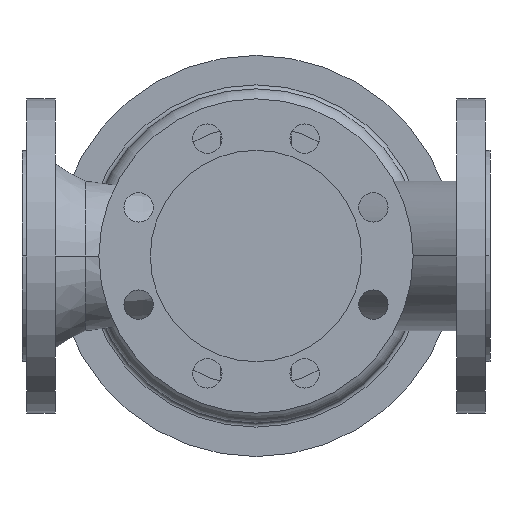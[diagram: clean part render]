
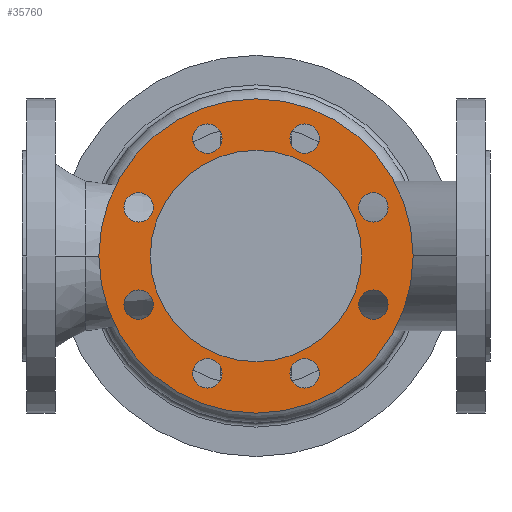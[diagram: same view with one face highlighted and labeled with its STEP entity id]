
A CAD part, front view. The second image highlights one B-rep face of the part: STEP entity #35760.
In plain terms, the highlighted planar face has unit normal (0, -1, 0).
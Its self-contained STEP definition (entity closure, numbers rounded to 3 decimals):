
#3290=CARTESIAN_POINT('',(254.,-146.5,0.));
#3300=VERTEX_POINT('',#3290);
#3350=CARTESIAN_POINT('',(175.,-146.5,0.));
#3360=DIRECTION('',(0.,-1.,0.));
#3370=DIRECTION('',(1.,0.,0.));
#3380=AXIS2_PLACEMENT_3D('',#3350,#3360,#3370);
#3390=CIRCLE('',#3380,79.);
#3400=CARTESIAN_POINT('',(96.,-146.5,0.));
#3410=VERTEX_POINT('',#3400);
#3420=EDGE_CURVE('',#3410,#3300,#3390,.T.);
#10490=CARTESIAN_POINT('',(57.5,-146.5,0.));
#10500=VERTEX_POINT('',#10490);
#10530=CARTESIAN_POINT('',(175.,-146.5,0.));
#10540=DIRECTION('',(0.,1.,0.));
#10550=DIRECTION('',(1.,0.,0.));
#10560=AXIS2_PLACEMENT_3D('',#10530,#10540,#10550);
#10570=CIRCLE('',#10560,117.5);
#10580=CARTESIAN_POINT('',(292.5,-146.5,0.));
#10590=VERTEX_POINT('',#10580);
#10600=EDGE_CURVE('',#10590,#10500,#10570,.T.);
#10910=CARTESIAN_POINT('',(251.769,-146.5,-36.355));
#10920=VERTEX_POINT('',#10910);
#11080=CARTESIAN_POINT('',(273.769,-146.5,-36.355));
#11090=VERTEX_POINT('',#11080);
#11120=CARTESIAN_POINT('',(262.769,-146.5,-36.355));
#11130=DIRECTION('',(0.,1.,0.));
#11140=DIRECTION('',(1.,0.,0.));
#11150=AXIS2_PLACEMENT_3D('',#11120,#11130,#11140);
#11160=CIRCLE('',#11150,11.);
#11170=EDGE_CURVE('',#11090,#10920,#11160,.T.);
#11330=CARTESIAN_POINT('',(273.769,-146.5,36.355));
#11340=VERTEX_POINT('',#11330);
#11500=CARTESIAN_POINT('',(251.769,-146.5,36.355));
#11510=VERTEX_POINT('',#11500);
#11540=CARTESIAN_POINT('',(262.769,-146.5,36.355));
#11550=DIRECTION('',(0.,1.,0.));
#11560=DIRECTION('',(1.,0.,0.));
#11570=AXIS2_PLACEMENT_3D('',#11540,#11550,#11560);
#11580=CIRCLE('',#11570,11.);
#11590=EDGE_CURVE('',#11510,#11340,#11580,.T.);
#11750=CARTESIAN_POINT('',(222.355,-146.5,-87.769));
#11760=VERTEX_POINT('',#11750);
#11790=CARTESIAN_POINT('',(211.355,-146.5,-87.769));
#11800=DIRECTION('',(0.,1.,0.));
#11810=DIRECTION('',(1.,0.,0.));
#11820=AXIS2_PLACEMENT_3D('',#11790,#11800,#11810);
#11830=CIRCLE('',#11820,11.);
#11840=CARTESIAN_POINT('',(200.355,-146.5,-87.769));
#11850=VERTEX_POINT('',#11840);
#11860=EDGE_CURVE('',#11760,#11850,#11830,.T.);
#12170=CARTESIAN_POINT('',(222.355,-146.5,87.769));
#12180=VERTEX_POINT('',#12170);
#12340=CARTESIAN_POINT('',(200.355,-146.5,87.769));
#12350=VERTEX_POINT('',#12340);
#12380=CARTESIAN_POINT('',(211.355,-146.5,87.769));
#12390=DIRECTION('',(0.,1.,0.));
#12400=DIRECTION('',(1.,0.,0.));
#12410=AXIS2_PLACEMENT_3D('',#12380,#12390,#12400);
#12420=CIRCLE('',#12410,11.);
#12430=EDGE_CURVE('',#12350,#12180,#12420,.T.);
#12590=CARTESIAN_POINT('',(149.645,-146.5,-87.769));
#12600=VERTEX_POINT('',#12590);
#12630=CARTESIAN_POINT('',(138.645,-146.5,-87.769));
#12640=DIRECTION('',(0.,1.,0.));
#12650=DIRECTION('',(1.,0.,0.));
#12660=AXIS2_PLACEMENT_3D('',#12630,#12640,#12650);
#12670=CIRCLE('',#12660,11.);
#12680=CARTESIAN_POINT('',(127.645,-146.5,-87.769));
#12690=VERTEX_POINT('',#12680);
#12700=EDGE_CURVE('',#12600,#12690,#12670,.T.);
#13010=CARTESIAN_POINT('',(149.645,-146.5,87.769));
#13020=VERTEX_POINT('',#13010);
#13050=CARTESIAN_POINT('',(138.645,-146.5,87.769));
#13060=DIRECTION('',(0.,1.,0.));
#13070=DIRECTION('',(1.,0.,0.));
#13080=AXIS2_PLACEMENT_3D('',#13050,#13060,#13070);
#13090=CIRCLE('',#13080,11.);
#13100=CARTESIAN_POINT('',(127.645,-146.5,87.769));
#13110=VERTEX_POINT('',#13100);
#13120=EDGE_CURVE('',#13020,#13110,#13090,.T.);
#13430=CARTESIAN_POINT('',(98.231,-146.5,-36.355));
#13440=VERTEX_POINT('',#13430);
#13600=CARTESIAN_POINT('',(76.231,-146.5,-36.355));
#13610=VERTEX_POINT('',#13600);
#13640=CARTESIAN_POINT('',(87.231,-146.5,-36.355));
#13650=DIRECTION('',(0.,1.,0.));
#13660=DIRECTION('',(1.,0.,0.));
#13670=AXIS2_PLACEMENT_3D('',#13640,#13650,#13660);
#13680=CIRCLE('',#13670,11.);
#13690=EDGE_CURVE('',#13610,#13440,#13680,.T.);
#13850=CARTESIAN_POINT('',(76.231,-146.5,36.355));
#13860=VERTEX_POINT('',#13850);
#13890=CARTESIAN_POINT('',(87.231,-146.5,36.355));
#13900=DIRECTION('',(0.,1.,0.));
#13910=DIRECTION('',(1.,0.,0.));
#13920=AXIS2_PLACEMENT_3D('',#13890,#13900,#13910);
#13930=CIRCLE('',#13920,11.);
#13940=CARTESIAN_POINT('',(98.231,-146.5,36.355));
#13950=VERTEX_POINT('',#13940);
#13960=EDGE_CURVE('',#13860,#13950,#13930,.T.);
#35210=CARTESIAN_POINT('',(175.,-146.5,0.));
#35220=DIRECTION('',(0.,1.,0.));
#35230=DIRECTION('',(0.,0.,1.));
#35240=AXIS2_PLACEMENT_3D('',#35210,#35220,#35230);
#35250=PLANE('',#35240);
#35260=ORIENTED_EDGE('',*,*,#13960,.T.);
#35270=EDGE_CURVE('',#13950,#13860,#13930,.T.);
#35280=ORIENTED_EDGE('',*,*,#35270,.T.);
#35290=EDGE_LOOP('',(#35280,#35260));
#35300=FACE_BOUND('',#35290,.T.);
#35310=EDGE_CURVE('',#13440,#13610,#13680,.T.);
#35320=ORIENTED_EDGE('',*,*,#35310,.T.);
#35330=ORIENTED_EDGE('',*,*,#13690,.T.);
#35340=EDGE_LOOP('',(#35330,#35320));
#35350=FACE_BOUND('',#35340,.T.);
#35360=EDGE_CURVE('',#13110,#13020,#13090,.T.);
#35370=ORIENTED_EDGE('',*,*,#35360,.T.);
#35380=ORIENTED_EDGE('',*,*,#13120,.T.);
#35390=EDGE_LOOP('',(#35380,#35370));
#35400=FACE_BOUND('',#35390,.T.);
#35410=ORIENTED_EDGE('',*,*,#12700,.T.);
#35420=EDGE_CURVE('',#12690,#12600,#12670,.T.);
#35430=ORIENTED_EDGE('',*,*,#35420,.T.);
#35440=EDGE_LOOP('',(#35430,#35410));
#35450=FACE_BOUND('',#35440,.T.);
#35460=EDGE_CURVE('',#12180,#12350,#12420,.T.);
#35470=ORIENTED_EDGE('',*,*,#35460,.T.);
#35480=ORIENTED_EDGE('',*,*,#12430,.T.);
#35490=EDGE_LOOP('',(#35480,#35470));
#35500=FACE_BOUND('',#35490,.T.);
#35510=EDGE_CURVE('',#11850,#11760,#11830,.T.);
#35520=ORIENTED_EDGE('',*,*,#35510,.T.);
#35530=ORIENTED_EDGE('',*,*,#11860,.T.);
#35540=EDGE_LOOP('',(#35530,#35520));
#35550=FACE_BOUND('',#35540,.T.);
#35560=EDGE_CURVE('',#11340,#11510,#11580,.T.);
#35570=ORIENTED_EDGE('',*,*,#35560,.T.);
#35580=ORIENTED_EDGE('',*,*,#11590,.T.);
#35590=EDGE_LOOP('',(#35580,#35570));
#35600=FACE_BOUND('',#35590,.T.);
#35610=EDGE_CURVE('',#10920,#11090,#11160,.T.);
#35620=ORIENTED_EDGE('',*,*,#35610,.T.);
#35630=ORIENTED_EDGE('',*,*,#11170,.T.);
#35640=EDGE_LOOP('',(#35630,#35620));
#35650=FACE_BOUND('',#35640,.T.);
#35660=EDGE_CURVE('',#10500,#10590,#10570,.T.);
#35670=ORIENTED_EDGE('',*,*,#35660,.F.);
#35680=ORIENTED_EDGE('',*,*,#10600,.F.);
#35690=EDGE_LOOP('',(#35680,#35670));
#35700=FACE_OUTER_BOUND('',#35690,.T.);
#35710=EDGE_CURVE('',#3300,#3410,#3390,.T.);
#35720=ORIENTED_EDGE('',*,*,#35710,.F.);
#35730=ORIENTED_EDGE('',*,*,#3420,.F.);
#35740=EDGE_LOOP('',(#35730,#35720));
#35750=FACE_BOUND('',#35740,.T.);
#35760=ADVANCED_FACE('',(#35300,#35350,#35400,#35450,#35500,#35550,
#35600,#35650,#35700,#35750),#35250,.F.);
